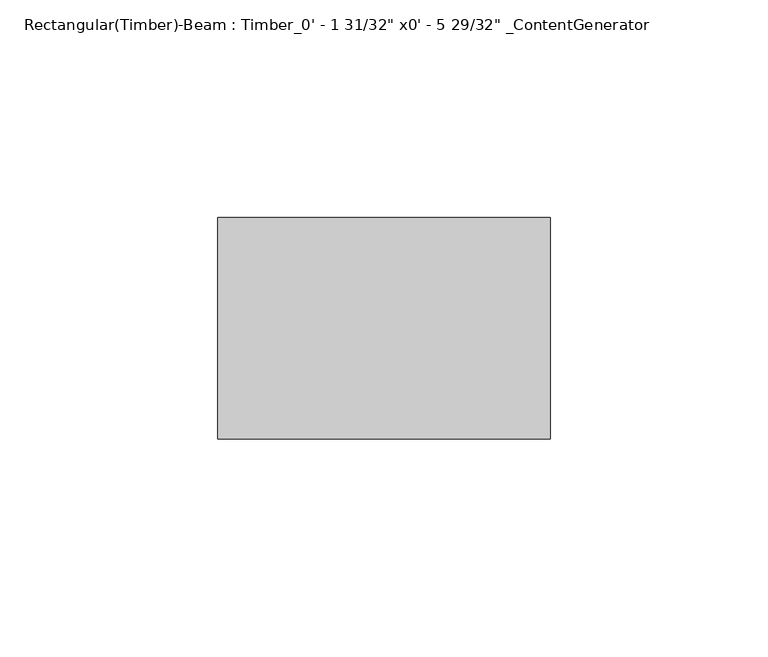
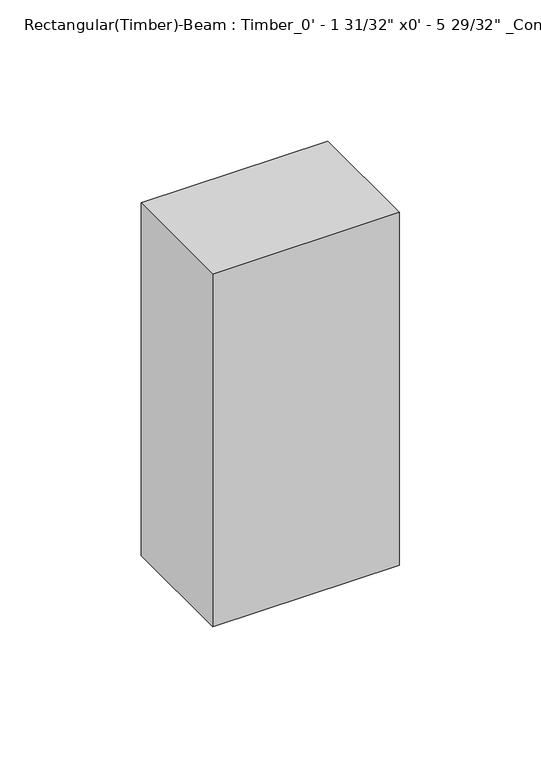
"""IFC4 building model written with IfcOpenShell, lengths in millimetres: beam geometry."""

from ifc_helpers import new_model, si_unit, frame, origin, place, context, project, spatial, polyline, outline, extrude, source, transform, mapped, element, save


def beam_df0c2ff2(model_context):
    return source(origin(), model_context, "Body", "SweptSolid", [
        extrude(outline(polyline([(38.0949994, 25.4), (38.0949994, -25.4), (-38.0949994, -25.4), (-38.0949994, 25.4), (38.0949994, 25.4)])), frame((0.0, 0.0, -76.2), z_axis=(0.0, 0.0, 1.0), x_axis=(1.0, 0.0, 0.0)), (0.0, 0.0, 1.0), 152.4),
    ])


if __name__ == "__main__":
    model = new_model("IFC4")
    model_context = context("Model", 3, world=origin())
    ifc_project = project(units=[si_unit("LENGTHUNIT", "METRE", prefix="MILLI")], contexts=[model_context])
    site = spatial("IfcSite", under=ifc_project)
    building = spatial("IfcBuilding", under=site)
    placement = place(None, origin())
    beam_shape = beam_df0c2ff2(model_context)
    element("IfcBeam", 1, ObjectType="Rectangular(Timber)-Beam : Timber_0' - 1 31/32\" x0' - 5 29/32\" _ContentGenerator", at=placement, inside=building, context=model_context, shape_type="MappedRepresentation", body=[
        mapped(beam_shape, transform((0.0, 0.0, 0.0), x_axis=(1.0, 0.0, 0.0), y_axis=(0.0, 1.0, 0.0), z_axis=(0.0, 0.0, 1.0))),
    ])
    save(model, "model.ifc")
